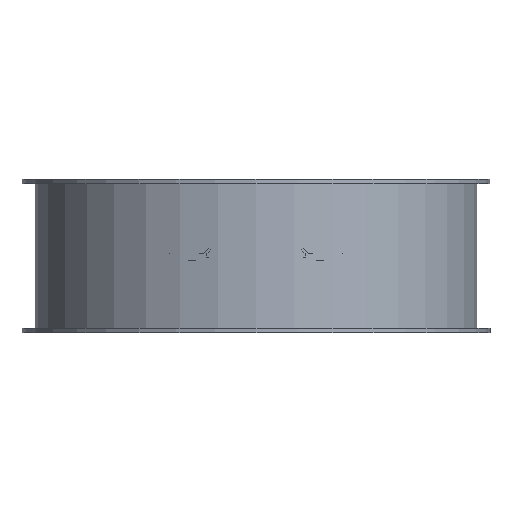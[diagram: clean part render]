
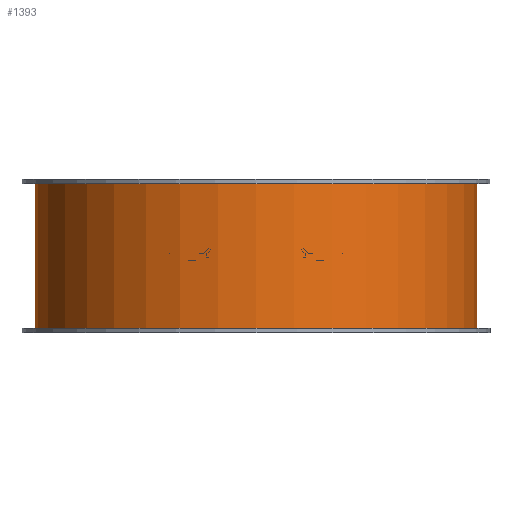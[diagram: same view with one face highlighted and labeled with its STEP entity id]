
A CAD part, left-side view. The second image highlights one B-rep face of the part: STEP entity #1393.
In plain terms, the highlighted cylindrical face has radius 101 mm (diameter 202 mm), a full revolution.
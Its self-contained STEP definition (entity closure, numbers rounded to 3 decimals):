
#938=CARTESIAN_POINT('',(-101.,0.,-33.0));
#939=VERTEX_POINT('',#938);
#940=CARTESIAN_POINT('',(0.0,0.0,-33.0));
#941=DIRECTION('',(0.0,0.0,1.0));
#942=DIRECTION('',(-1.0,0.0,0.0));
#943=AXIS2_PLACEMENT_3D('',#940,#941,#942);
#944=CIRCLE('',#943,101.);
#945=EDGE_CURVE('',#939,#939,#944,.T.);
#986=CARTESIAN_POINT('',(101.,0.,33.0));
#987=VERTEX_POINT('',#986);
#988=CARTESIAN_POINT('',(0.0,0.0,33.0));
#989=DIRECTION('',(0.0,0.0,-1.0));
#990=DIRECTION('',(-1.0,0.0,0.0));
#991=AXIS2_PLACEMENT_3D('',#988,#989,#990);
#992=CIRCLE('',#991,101.);
#993=EDGE_CURVE('',#987,#987,#992,.T.);
#1044=CARTESIAN_POINT('',(99.,-20.,8.));
#1045=VERTEX_POINT('',#1044);
#1046=CARTESIAN_POINT('',(99.,20.,8.));
#1047=VERTEX_POINT('',#1046);
#1048=CARTESIAN_POINT('',(0.0,0.0,8.));
#1049=DIRECTION('',(0.0,0.0,1.0));
#1050=DIRECTION('',(-1.0,0.0,0.0));
#1051=AXIS2_PLACEMENT_3D('',#1048,#1049,#1050);
#1052=CIRCLE('',#1051,101.);
#1053=EDGE_CURVE('',#1045,#1047,#1052,.T.);
#1088=CARTESIAN_POINT('',(97.857,-25.,3.));
#1089=VERTEX_POINT('',#1088);
#1090=CARTESIAN_POINT('',(0.0,0.0,28.));
#1091=DIRECTION('',(0.0,-0.707,0.707));
#1092=DIRECTION('',(0.0,-0.707,-0.707));
#1093=AXIS2_PLACEMENT_3D('',#1090,#1091,#1092);
#1094=ELLIPSE('',#1093,142.836,101.);
#1095=EDGE_CURVE('',#1089,#1045,#1094,.T.);
#1120=CARTESIAN_POINT('',(97.857,25.,3.));
#1121=VERTEX_POINT('',#1120);
#1122=CARTESIAN_POINT('',(0.0,0.0,28.));
#1123=DIRECTION('',(0.0,0.707,0.707));
#1124=DIRECTION('',(0.0,-0.707,0.707));
#1125=AXIS2_PLACEMENT_3D('',#1122,#1123,#1124);
#1126=ELLIPSE('',#1125,142.836,101.);
#1127=EDGE_CURVE('',#1047,#1121,#1126,.T.);
#1152=CARTESIAN_POINT('',(0.0,-101.,3.));
#1153=VERTEX_POINT('',#1152);
#1154=CARTESIAN_POINT('',(0.0,0.0,3.));
#1155=DIRECTION('',(0.0,0.0,1.0));
#1156=DIRECTION('',(-1.0,0.0,0.0));
#1157=AXIS2_PLACEMENT_3D('',#1154,#1155,#1156);
#1158=CIRCLE('',#1157,101.);
#1159=EDGE_CURVE('',#1153,#1089,#1158,.T.);
#1184=CARTESIAN_POINT('',(0.0,101.,3.));
#1185=VERTEX_POINT('',#1184);
#1186=CARTESIAN_POINT('',(0.0,0.0,3.));
#1187=DIRECTION('',(0.0,0.0,1.0));
#1188=DIRECTION('',(-1.0,0.0,0.0));
#1189=AXIS2_PLACEMENT_3D('',#1186,#1187,#1188);
#1190=CIRCLE('',#1189,101.);
#1191=EDGE_CURVE('',#1121,#1185,#1190,.T.);
#1216=CARTESIAN_POINT('',(0.0,101.,-3.));
#1217=VERTEX_POINT('',#1216);
#1218=CARTESIAN_POINT('',(0.0,-101.,-3.));
#1219=VERTEX_POINT('',#1218);
#1220=CARTESIAN_POINT('',(0.0,0.0,-3.));
#1221=DIRECTION('',(0.0,0.0,-1.0));
#1222=DIRECTION('',(-1.0,0.0,0.0));
#1223=AXIS2_PLACEMENT_3D('',#1220,#1221,#1222);
#1224=CIRCLE('',#1223,101.);
#1225=EDGE_CURVE('',#1217,#1219,#1224,.T.);
#1257=CARTESIAN_POINT('',(0.0,101.,-3.));
#1258=DIRECTION('',(0.0,0.0,1.0));
#1259=VECTOR('',#1258,6.);
#1260=LINE('',#1257,#1259);
#1261=EDGE_CURVE('',#1217,#1185,#1260,.T.);
#1279=CARTESIAN_POINT('',(0.0,-101.,-3.));
#1280=DIRECTION('',(0.0,0.0,1.0));
#1281=VECTOR('',#1280,6.);
#1282=LINE('',#1279,#1281);
#1283=EDGE_CURVE('',#1219,#1153,#1282,.T.);
#1372=CARTESIAN_POINT('',(0.0,0.0,0.0));
#1373=DIRECTION('',(0.0,0.0,1.0));
#1374=DIRECTION('',(-1.0,0.0,0.0));
#1375=AXIS2_PLACEMENT_3D('',#1372,#1373,#1374);
#1376=CYLINDRICAL_SURFACE('',#1375,101.);
#1377=ORIENTED_EDGE('',*,*,#945,.T.);
#1378=EDGE_LOOP('',(#1377));
#1379=FACE_OUTER_BOUND('',#1378,.T.);
#1380=ORIENTED_EDGE('',*,*,#993,.T.);
#1381=EDGE_LOOP('',(#1380));
#1382=FACE_BOUND('',#1381,.T.);
#1383=ORIENTED_EDGE('',*,*,#1225,.T.);
#1384=ORIENTED_EDGE('',*,*,#1283,.T.);
#1385=ORIENTED_EDGE('',*,*,#1159,.T.);
#1386=ORIENTED_EDGE('',*,*,#1095,.T.);
#1387=ORIENTED_EDGE('',*,*,#1053,.T.);
#1388=ORIENTED_EDGE('',*,*,#1127,.T.);
#1389=ORIENTED_EDGE('',*,*,#1191,.T.);
#1390=ORIENTED_EDGE('',*,*,#1261,.F.);
#1391=EDGE_LOOP('',(#1383,#1384,#1385,#1386,#1387,#1388,#1389,#1390));
#1392=FACE_BOUND('',#1391,.T.);
#1393=ADVANCED_FACE('',(#1379,#1382,#1392),#1376,.T.);
